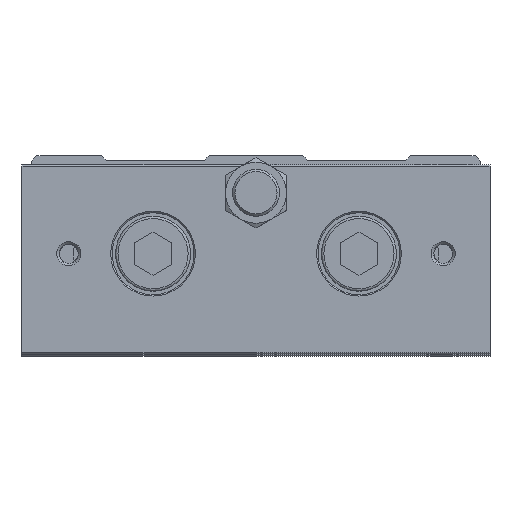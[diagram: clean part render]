
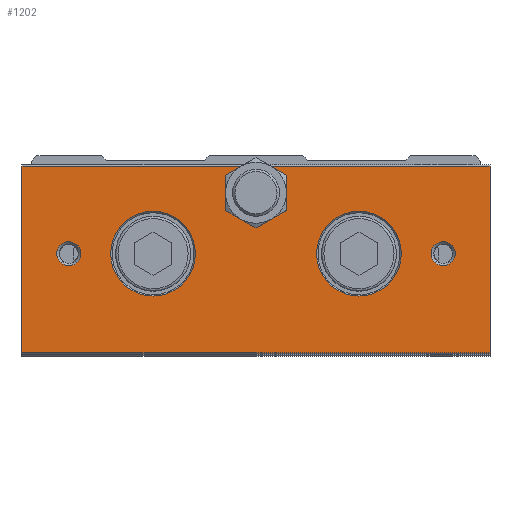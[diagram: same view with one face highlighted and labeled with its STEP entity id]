
A CAD part, top view. The second image highlights one B-rep face of the part: STEP entity #1202.
In plain terms, the highlighted planar face has unit normal (0, 0, 1).
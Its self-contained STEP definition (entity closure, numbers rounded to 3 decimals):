
#1044=CARTESIAN_POINT('',(42.567,-0.75,162.5));
#1045=VERTEX_POINT('',#1044);
#1046=CARTESIAN_POINT('',(40.0,-0.75,162.5));
#1047=DIRECTION('',(0.0,0.0,1.0));
#1048=DIRECTION('',(-1.0,0.0,0.0));
#1049=AXIS2_PLACEMENT_3D('',#1046,#1047,#1048);
#1050=CIRCLE('',#1049,2.567);
#1051=EDGE_CURVE('',#1045,#1045,#1050,.T.);
#1056=CARTESIAN_POINT('',(0.0,-22.25,162.5));
#1057=DIRECTION('',(0.0,0.0,1.0));
#1058=DIRECTION('',(1.0,0.0,0.0));
#1059=AXIS2_PLACEMENT_3D('',#1056,#1057,#1058);
#1060=PLANE('',#1059);
#1061=CARTESIAN_POINT('',(50.0,-21.95,162.5));
#1062=VERTEX_POINT('',#1061);
#1063=CARTESIAN_POINT('',(-50.0,-21.95,162.5));
#1064=VERTEX_POINT('',#1063);
#1065=CARTESIAN_POINT('',(50.0,-21.95,162.5));
#1066=DIRECTION('',(-1.0,0.0,0.0));
#1067=VECTOR('',#1066,100.0);
#1068=LINE('',#1065,#1067);
#1069=EDGE_CURVE('',#1062,#1064,#1068,.T.);
#1070=ORIENTED_EDGE('',*,*,#1069,.F.);
#1071=CARTESIAN_POINT('',(50.0,17.95,162.5));
#1072=VERTEX_POINT('',#1071);
#1073=CARTESIAN_POINT('',(50.0,-21.95,162.5));
#1074=DIRECTION('',(0.0,1.0,0.0));
#1075=VECTOR('',#1074,39.9);
#1076=LINE('',#1073,#1075);
#1077=EDGE_CURVE('',#1062,#1072,#1076,.T.);
#1078=ORIENTED_EDGE('',*,*,#1077,.T.);
#1079=CARTESIAN_POINT('',(3.124,17.95,162.5));
#1080=VERTEX_POINT('',#1079);
#1081=CARTESIAN_POINT('',(3.124,17.95,162.5));
#1082=DIRECTION('',(1.0,0.0,0.0));
#1083=VECTOR('',#1082,46.876);
#1084=LINE('',#1081,#1083);
#1085=EDGE_CURVE('',#1080,#1072,#1084,.T.);
#1086=ORIENTED_EDGE('',*,*,#1085,.F.);
#1087=CARTESIAN_POINT('',(3.25,17.879,162.5));
#1088=VERTEX_POINT('',#1087);
#1089=CARTESIAN_POINT('',(0.0,12.25,162.5));
#1090=DIRECTION('',(0.0,0.0,1.0));
#1091=DIRECTION('',(0.0,1.0,0.0));
#1092=AXIS2_PLACEMENT_3D('',#1089,#1090,#1091);
#1093=CIRCLE('',#1092,6.5);
#1094=EDGE_CURVE('',#1088,#1080,#1093,.T.);
#1095=ORIENTED_EDGE('',*,*,#1094,.F.);
#1096=CARTESIAN_POINT('',(6.5,12.25,162.5));
#1097=VERTEX_POINT('',#1096);
#1098=CARTESIAN_POINT('',(0.0,12.25,162.5));
#1099=DIRECTION('',(0.0,0.0,1.0));
#1100=DIRECTION('',(0.0,1.0,0.0));
#1101=AXIS2_PLACEMENT_3D('',#1098,#1099,#1100);
#1102=CIRCLE('',#1101,6.5);
#1103=EDGE_CURVE('',#1097,#1088,#1102,.T.);
#1104=ORIENTED_EDGE('',*,*,#1103,.F.);
#1105=CARTESIAN_POINT('',(3.25,6.621,162.5));
#1106=VERTEX_POINT('',#1105);
#1107=CARTESIAN_POINT('',(0.0,12.25,162.5));
#1108=DIRECTION('',(0.0,0.0,1.0));
#1109=DIRECTION('',(0.0,1.0,0.0));
#1110=AXIS2_PLACEMENT_3D('',#1107,#1108,#1109);
#1111=CIRCLE('',#1110,6.5);
#1112=EDGE_CURVE('',#1106,#1097,#1111,.T.);
#1113=ORIENTED_EDGE('',*,*,#1112,.F.);
#1114=CARTESIAN_POINT('',(-3.25,6.621,162.5));
#1115=VERTEX_POINT('',#1114);
#1116=CARTESIAN_POINT('',(0.0,12.25,162.5));
#1117=DIRECTION('',(0.0,0.0,1.0));
#1118=DIRECTION('',(0.0,1.0,0.0));
#1119=AXIS2_PLACEMENT_3D('',#1116,#1117,#1118);
#1120=CIRCLE('',#1119,6.5);
#1121=EDGE_CURVE('',#1115,#1106,#1120,.T.);
#1122=ORIENTED_EDGE('',*,*,#1121,.F.);
#1123=CARTESIAN_POINT('',(-6.5,12.25,162.5));
#1124=VERTEX_POINT('',#1123);
#1125=CARTESIAN_POINT('',(0.0,12.25,162.5));
#1126=DIRECTION('',(0.0,0.0,1.0));
#1127=DIRECTION('',(0.0,1.0,0.0));
#1128=AXIS2_PLACEMENT_3D('',#1125,#1126,#1127);
#1129=CIRCLE('',#1128,6.5);
#1130=EDGE_CURVE('',#1124,#1115,#1129,.T.);
#1131=ORIENTED_EDGE('',*,*,#1130,.F.);
#1132=CARTESIAN_POINT('',(-3.25,17.879,162.5));
#1133=VERTEX_POINT('',#1132);
#1134=CARTESIAN_POINT('',(0.0,12.25,162.5));
#1135=DIRECTION('',(0.0,0.0,1.0));
#1136=DIRECTION('',(0.0,1.0,0.0));
#1137=AXIS2_PLACEMENT_3D('',#1134,#1135,#1136);
#1138=CIRCLE('',#1137,6.5);
#1139=EDGE_CURVE('',#1133,#1124,#1138,.T.);
#1140=ORIENTED_EDGE('',*,*,#1139,.F.);
#1141=CARTESIAN_POINT('',(-3.124,17.95,162.5));
#1142=VERTEX_POINT('',#1141);
#1143=CARTESIAN_POINT('',(0.0,12.25,162.5));
#1144=DIRECTION('',(0.0,0.0,1.0));
#1145=DIRECTION('',(0.0,1.0,0.0));
#1146=AXIS2_PLACEMENT_3D('',#1143,#1144,#1145);
#1147=CIRCLE('',#1146,6.5);
#1148=EDGE_CURVE('',#1142,#1133,#1147,.T.);
#1149=ORIENTED_EDGE('',*,*,#1148,.F.);
#1150=CARTESIAN_POINT('',(-50.0,17.95,162.5));
#1151=VERTEX_POINT('',#1150);
#1152=CARTESIAN_POINT('',(-50.0,17.95,162.5));
#1153=DIRECTION('',(1.0,0.0,0.0));
#1154=VECTOR('',#1153,46.876);
#1155=LINE('',#1152,#1154);
#1156=EDGE_CURVE('',#1151,#1142,#1155,.T.);
#1157=ORIENTED_EDGE('',*,*,#1156,.F.);
#1158=CARTESIAN_POINT('',(-50.0,17.95,162.5));
#1159=DIRECTION('',(0.0,-1.0,0.0));
#1160=VECTOR('',#1159,39.9);
#1161=LINE('',#1158,#1160);
#1162=EDGE_CURVE('',#1151,#1064,#1161,.T.);
#1163=ORIENTED_EDGE('',*,*,#1162,.T.);
#1164=EDGE_LOOP('',(#1070,#1078,#1086,#1095,#1104,#1113,#1122,#1131,#1140,#1149,#1157,#1163));
#1165=FACE_OUTER_BOUND('',#1164,.T.);
#1166=CARTESIAN_POINT('',(-37.433,-0.75,162.5));
#1167=VERTEX_POINT('',#1166);
#1168=CARTESIAN_POINT('',(-40.0,-0.75,162.5));
#1169=DIRECTION('',(0.0,0.0,1.0));
#1170=DIRECTION('',(-1.0,0.0,0.0));
#1171=AXIS2_PLACEMENT_3D('',#1168,#1169,#1170);
#1172=CIRCLE('',#1171,2.567);
#1173=EDGE_CURVE('',#1167,#1167,#1172,.T.);
#1174=ORIENTED_EDGE('',*,*,#1173,.F.);
#1175=EDGE_LOOP('',(#1174));
#1176=FACE_BOUND('',#1175,.T.);
#1177=CARTESIAN_POINT('',(-12.95,-0.75,162.5));
#1178=VERTEX_POINT('',#1177);
#1179=CARTESIAN_POINT('',(-22.0,-0.75,162.5));
#1180=DIRECTION('',(0.0,0.0,1.0));
#1181=DIRECTION('',(-1.0,0.0,0.0));
#1182=AXIS2_PLACEMENT_3D('',#1179,#1180,#1181);
#1183=CIRCLE('',#1182,9.05);
#1184=EDGE_CURVE('',#1178,#1178,#1183,.T.);
#1185=ORIENTED_EDGE('',*,*,#1184,.F.);
#1186=EDGE_LOOP('',(#1185));
#1187=FACE_BOUND('',#1186,.T.);
#1188=CARTESIAN_POINT('',(31.05,-0.75,162.5));
#1189=VERTEX_POINT('',#1188);
#1190=CARTESIAN_POINT('',(22.0,-0.75,162.5));
#1191=DIRECTION('',(0.0,0.0,1.0));
#1192=DIRECTION('',(-1.0,0.0,0.0));
#1193=AXIS2_PLACEMENT_3D('',#1190,#1191,#1192);
#1194=CIRCLE('',#1193,9.05);
#1195=EDGE_CURVE('',#1189,#1189,#1194,.T.);
#1196=ORIENTED_EDGE('',*,*,#1195,.F.);
#1197=EDGE_LOOP('',(#1196));
#1198=FACE_BOUND('',#1197,.T.);
#1199=ORIENTED_EDGE('',*,*,#1051,.F.);
#1200=EDGE_LOOP('',(#1199));
#1201=FACE_BOUND('',#1200,.T.);
#1202=ADVANCED_FACE('',(#1165,#1176,#1187,#1198,#1201),#1060,.T.);
